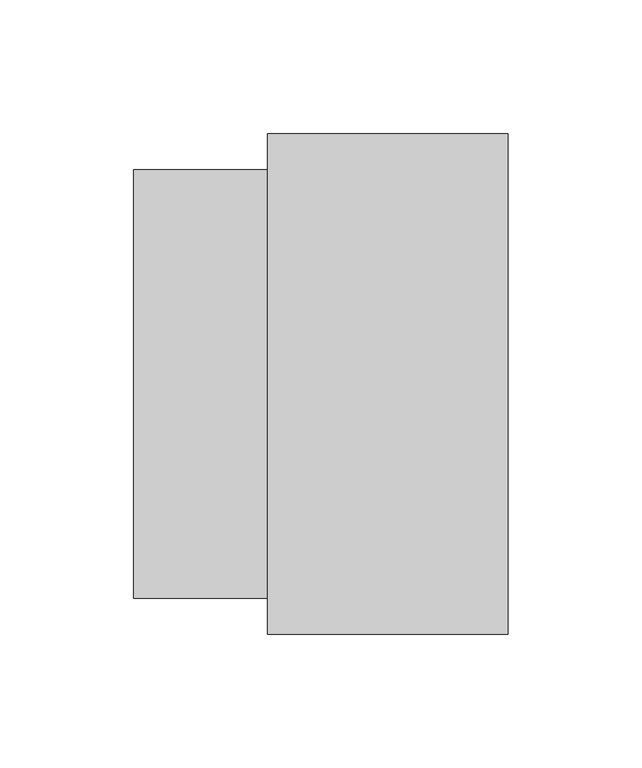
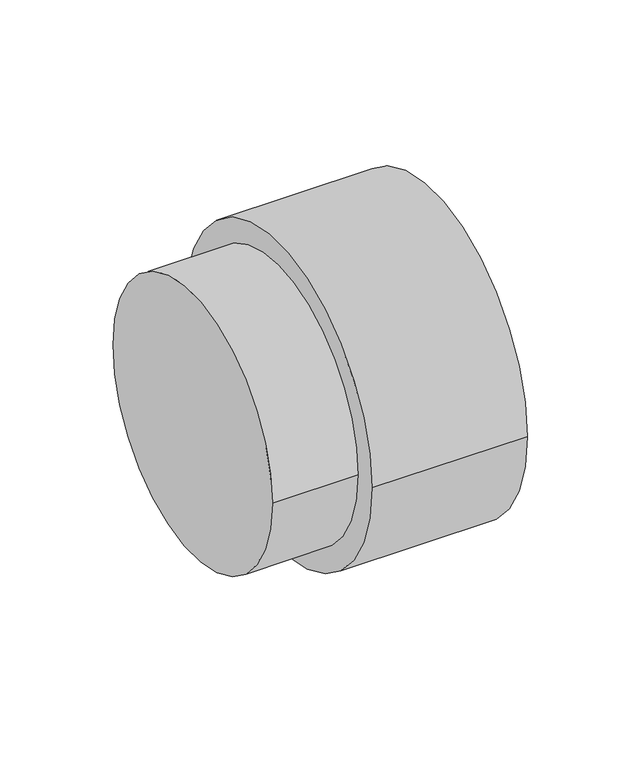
"""IFC4 building model written with IfcOpenShell, lengths in millimetres: pipe fitting geometry, NLRS_52_PIF_UN_PE overgang_geb : DN100-150-148 / ø110-160-148."""

from ifc_helpers import new_model, si_unit, point, frame, origin, origin_2d, place, context, project, spatial, circle_curve, trimmed, segment, composite_curve, outline, extrude, source, transform, mapped, element, save


def pipe_fitting_5e263041(model_context):
    return source(origin(), model_context, "Body", "SweptSolid", [
        extrude(outline(composite_curve([segment(trimmed(circle_curve(origin_2d(), 93.5), [point((-93.5, 0.0))], [point((93.5, 0.0))], False, "CARTESIAN"), True, "CONTINUOUS"), segment(trimmed(circle_curve(origin_2d(), 93.5), [point((93.5, 0.0))], [point((-93.5, 0.0))], False, "CARTESIAN"), True, "CONTINUOUS")], self_intersect=False)), frame((0.0, 0.0, 0.0), z_axis=(1.0, 0.0, 0.0), x_axis=(0.0, 1.0, 0.0)), (0.0, 0.0, 1.0), 90.0),
        extrude(outline(composite_curve([segment(trimmed(circle_curve(origin_2d(), 80.0), [point((-80.0, 0.0))], [point((80.0, 0.0))], False, "CARTESIAN"), True, "CONTINUOUS"), segment(trimmed(circle_curve(origin_2d(), 80.0), [point((80.0, 0.0))], [point((-80.0, 0.0))], False, "CARTESIAN"), True, "CONTINUOUS")], self_intersect=False)), frame((-50.0, 0.0, 0.0), z_axis=(1.0, 0.0, 0.0), x_axis=(0.0, 1.0, 0.0)), (0.0, 0.0, 1.0), 50.0),
    ])


if __name__ == "__main__":
    model = new_model("IFC4")
    model_context = context("Model", 3, world=origin())
    ifc_project = project(units=[si_unit("LENGTHUNIT", "METRE", prefix="MILLI")], contexts=[model_context])
    site = spatial("IfcSite", under=ifc_project)
    building = spatial("IfcBuilding", under=site)
    placement = place(None, origin())
    pipe_fitting_shape = pipe_fitting_5e263041(model_context)
    element("IfcPipeFitting", 1, ObjectType="NLRS_52_PIF_UN_PE overgang_geb : DN100-150-148 / ø110-160-148", at=placement, inside=building, context=model_context, shape_type="MappedRepresentation", body=[
        mapped(pipe_fitting_shape, transform((0.0, 0.0, 0.0), x_axis=(1.0, 0.0, 0.0), y_axis=(0.0, 1.0, 0.0), z_axis=(0.0, 0.0, 1.0))),
    ])
    save(model, "model.ifc")
